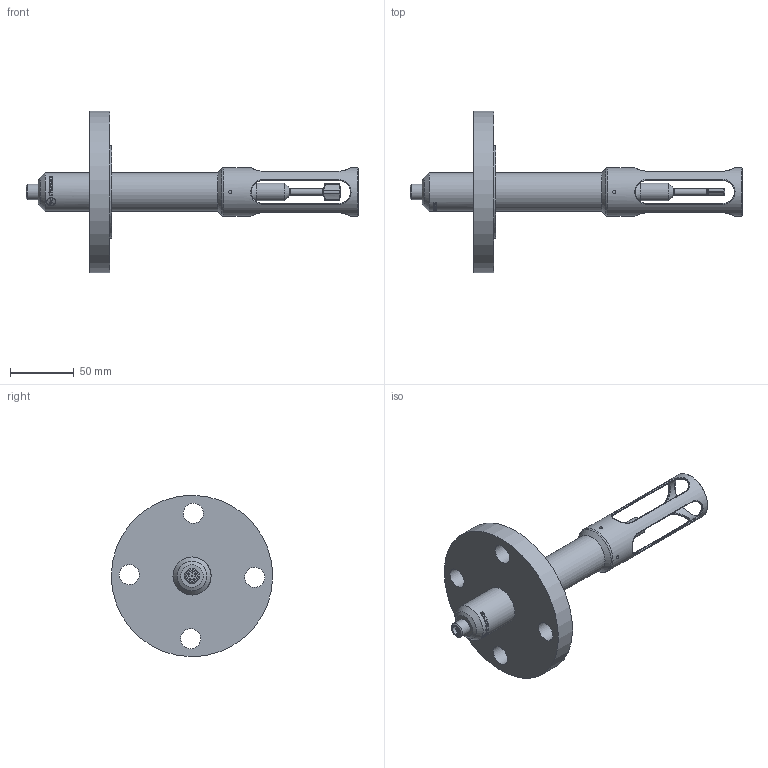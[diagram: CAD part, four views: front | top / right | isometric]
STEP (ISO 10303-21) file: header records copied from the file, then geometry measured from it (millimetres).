
FILE_DESCRIPTION(/* description */ ('Unknown'),/* implementation_level */ '2;1');
FILE_NAME(/* name */ 'SPS-HD-SRD',/* time_stamp */ '2024-12-04T16:04:46-05:00',/* author */ ('Unknown'),/* organization */ ('Unknown'),/* preprocessor_version */ 'ST-DEVELOPER v16.7',/* originating_system */ 'Solid Edge',/* authorisation */ 'Unknown');
FILE_SCHEMA (('AUTOMOTIVE_DESIGN {1 0 10303 214 3 1 1}'));
Length unit declared in the file: millimetre
Products named in the file (3): SPS-HD-SRD; SPS-HD-SRX; SRD-HD-X5-A180-BA15A
Assembly tree (2 placements, depth 2):
  SPS-HD-SRD
    SPS-HD-SRX
    SRD-HD-X5-A180-BA15A
Bounding box: 261.21 x 126.97 x 126.97 mm (x, y, z)
Volume: 319696.3 mm3; surface area: 64889.7 mm2
Topology: 2 solids, 2 shells, 266 faces, 670 edges, 423 vertices
Faces by surface type: bspline 108, cylinder 80, plane 45, torus 15, cone 10, sphere 8
Full cylindrical faces by diameter (mm): 0.8 x8, 2.459 x4, 5 x1, 8 x1, 12 x1, 13.9 x1, 15.748 x4, 30 x3, 35 x1, 38 x1, 73.152 x1, 127 x1
Entity records: 12755 total; most frequent: CARTESIAN_POINT 7440, ORIENTED_EDGE 1166, DIRECTION 802, EDGE_CURVE 583, VERTEX_POINT 392, EDGE_LOOP 363, FACE_BOUND 363, AXIS2_PLACEMENT_3D 311
